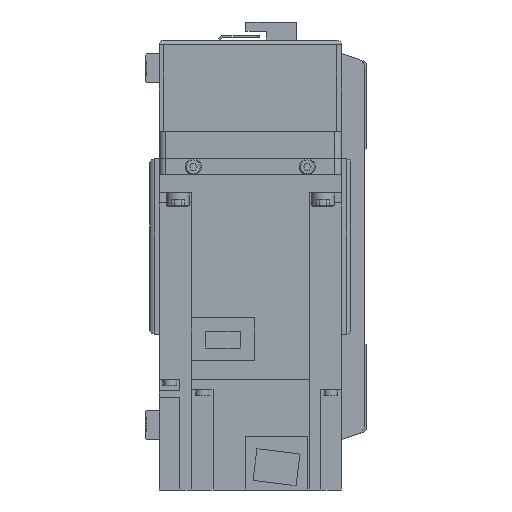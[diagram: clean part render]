
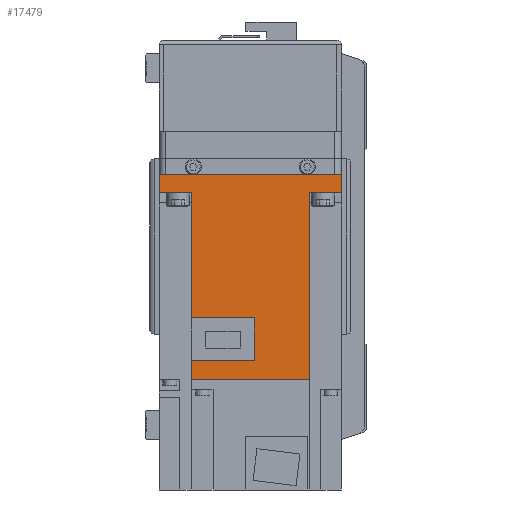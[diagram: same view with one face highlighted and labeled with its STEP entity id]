
A CAD part, left-side view. The second image highlights one B-rep face of the part: STEP entity #17479.
In plain terms, the highlighted planar face has unit normal (-1, 0, 0) as drawn and (1, 0, 0) by its records, which use the part's own axes.
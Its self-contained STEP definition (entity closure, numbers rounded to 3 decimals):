
#1927=ORIENTED_EDGE('',*,*,#6735,.F.);
#1928=ORIENTED_EDGE('',*,*,#6736,.F.);
#1929=ORIENTED_EDGE('',*,*,#6737,.F.);
#1930=ORIENTED_EDGE('',*,*,#6738,.T.);
#1931=ORIENTED_EDGE('',*,*,#6739,.F.);
#1932=ORIENTED_EDGE('',*,*,#6740,.T.);
#1933=ORIENTED_EDGE('',*,*,#6741,.T.);
#1934=ORIENTED_EDGE('',*,*,#6742,.F.);
#1935=ORIENTED_EDGE('',*,*,#6743,.F.);
#1936=ORIENTED_EDGE('',*,*,#6744,.F.);
#1937=ORIENTED_EDGE('',*,*,#6745,.F.);
#1938=ORIENTED_EDGE('',*,*,#6746,.F.);
#6735=EDGE_CURVE('',#9199,#9200,#10933,.T.);
#6736=EDGE_CURVE('',#9201,#9199,#10934,.T.);
#6737=EDGE_CURVE('',#9202,#9201,#10935,.T.);
#6738=EDGE_CURVE('',#9202,#9203,#10936,.T.);
#6739=EDGE_CURVE('',#9204,#9203,#10937,.T.);
#6740=EDGE_CURVE('',#9204,#9205,#10938,.T.);
#6741=EDGE_CURVE('',#9205,#9206,#10939,.T.);
#6742=EDGE_CURVE('',#9207,#9206,#10940,.T.);
#6743=EDGE_CURVE('',#9208,#9207,#10941,.T.);
#6744=EDGE_CURVE('',#9209,#9208,#10942,.T.);
#6745=EDGE_CURVE('',#9210,#9209,#10943,.T.);
#6746=EDGE_CURVE('',#9200,#9210,#10944,.T.);
#9199=VERTEX_POINT('',#26328);
#9200=VERTEX_POINT('',#26329);
#9201=VERTEX_POINT('',#26331);
#9202=VERTEX_POINT('',#26333);
#9203=VERTEX_POINT('',#26335);
#9204=VERTEX_POINT('',#26337);
#9205=VERTEX_POINT('',#26339);
#9206=VERTEX_POINT('',#26341);
#9207=VERTEX_POINT('',#26343);
#9208=VERTEX_POINT('',#26345);
#9209=VERTEX_POINT('',#26347);
#9210=VERTEX_POINT('',#26349);
#10933=LINE('',#26327,#12569);
#10934=LINE('',#26330,#12570);
#10935=LINE('',#26332,#12571);
#10936=LINE('',#26334,#12572);
#10937=LINE('',#26336,#12573);
#10938=LINE('',#26338,#12574);
#10939=LINE('',#26340,#12575);
#10940=LINE('',#26342,#12576);
#10941=LINE('',#26344,#12577);
#10942=LINE('',#26346,#12578);
#10943=LINE('',#26348,#12579);
#10944=LINE('',#26350,#12580);
#12569=VECTOR('',#20985,1000.);
#12570=VECTOR('',#20986,1000.);
#12571=VECTOR('',#20987,1000.);
#12572=VECTOR('',#20988,1000.);
#12573=VECTOR('',#20989,1000.);
#12574=VECTOR('',#20990,1000.);
#12575=VECTOR('',#20991,1000.);
#12576=VECTOR('',#20992,1000.);
#12577=VECTOR('',#20993,1000.);
#12578=VECTOR('',#20994,1000.);
#12579=VECTOR('',#20995,1000.);
#12580=VECTOR('',#20996,1000.);
#14197=EDGE_LOOP('',(#1927,#1928,#1929,#1930,#1931,#1932,#1933,#1934,#1935,
#1936,#1937,#1938));
#15539=FACE_BOUND('',#14197,.T.);
#16774=PLANE('',#18693);
#17479=ADVANCED_FACE('',(#15539),#16774,.F.);
#18693=AXIS2_PLACEMENT_3D('',#26326,#20983,#20984);
#20983=DIRECTION('',(-1.,0.,0.));
#20984=DIRECTION('',(0.,0.,1.));
#20985=DIRECTION('',(0.,0.,1.));
#20986=DIRECTION('',(0.,-1.,0.));
#20987=DIRECTION('',(0.,0.,-1.));
#20988=DIRECTION('',(0.,-1.,0.));
#20989=DIRECTION('',(0.,0.,-1.));
#20990=DIRECTION('',(0.,-1.,0.));
#20991=DIRECTION('',(0.,0.,-1.));
#20992=DIRECTION('',(0.,-1.,0.));
#20993=DIRECTION('',(0.,0.,-1.));
#20994=DIRECTION('',(0.,-1.,0.));
#20995=DIRECTION('',(0.,0.,-1.));
#20996=DIRECTION('',(0.,-1.,0.));
#26326=CARTESIAN_POINT('',(40.,89.8,40.));
#26327=CARTESIAN_POINT('',(40.,81.4,-26.));
#26328=CARTESIAN_POINT('',(40.,81.4,-25.95));
#26329=CARTESIAN_POINT('',(40.,81.4,1.8));
#26330=CARTESIAN_POINT('',(40.,158.,-25.95));
#26331=CARTESIAN_POINT('',(40.,89.8,-25.95));
#26332=CARTESIAN_POINT('',(40.,89.8,40.));
#26333=CARTESIAN_POINT('',(40.,89.8,25.95));
#26334=CARTESIAN_POINT('',(40.,158.,25.95));
#26335=CARTESIAN_POINT('',(40.,8.,25.95));
#26336=CARTESIAN_POINT('',(40.,8.,40.));
#26337=CARTESIAN_POINT('',(40.,8.,40.));
#26338=CARTESIAN_POINT('',(40.,89.8,40.));
#26339=CARTESIAN_POINT('',(40.,0.,40.));
#26340=CARTESIAN_POINT('',(40.,0.,40.));
#26341=CARTESIAN_POINT('',(40.,0.,-40.));
#26342=CARTESIAN_POINT('',(40.,89.8,-40.));
#26343=CARTESIAN_POINT('',(40.,8.,-40.));
#26344=CARTESIAN_POINT('',(40.,8.,40.));
#26345=CARTESIAN_POINT('',(40.,8.,-25.95));
#26346=CARTESIAN_POINT('',(40.,158.,-25.95));
#26347=CARTESIAN_POINT('',(40.,62.8,-25.95));
#26348=CARTESIAN_POINT('',(40.,62.8,1.8));
#26349=CARTESIAN_POINT('',(40.,62.8,1.8));
#26350=CARTESIAN_POINT('',(40.,81.4,1.8));
